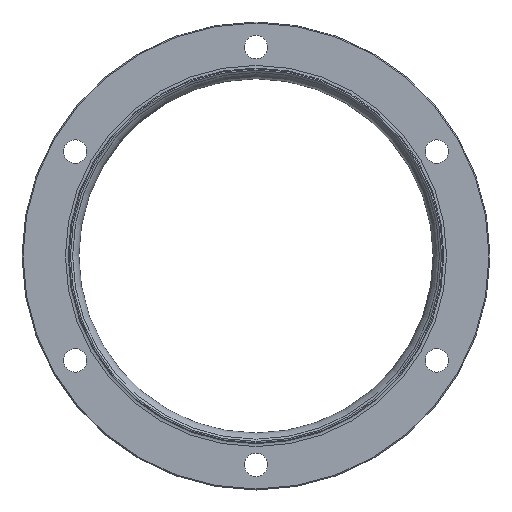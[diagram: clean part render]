
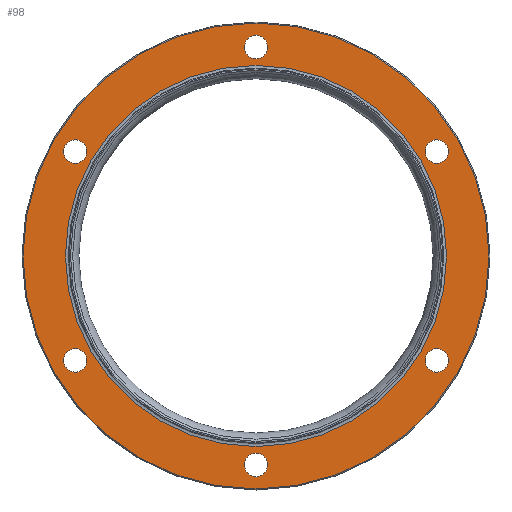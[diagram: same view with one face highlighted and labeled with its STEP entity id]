
A CAD part, top view. The second image highlights one B-rep face of the part: STEP entity #98.
In plain terms, the highlighted planar face has unit normal (0, 0, 1).
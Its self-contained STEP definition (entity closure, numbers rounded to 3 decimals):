
#98=ADVANCED_FACE('',(#317,#319,#321,#323,#325,#327,#329,#331),#333,.T.);
#317=FACE_BOUND('',#318,.T.);
#318=EDGE_LOOP('',(#508));
#319=FACE_BOUND('',#320,.T.);
#320=EDGE_LOOP('',(#509));
#321=FACE_BOUND('',#322,.T.);
#322=EDGE_LOOP('',(#510));
#323=FACE_BOUND('',#324,.T.);
#324=EDGE_LOOP('',(#511));
#325=FACE_BOUND('',#326,.T.);
#326=EDGE_LOOP('',(#512));
#327=FACE_BOUND('',#328,.T.);
#328=EDGE_LOOP('',(#513));
#329=FACE_BOUND('',#330,.T.);
#330=EDGE_LOOP('',(#514));
#331=FACE_BOUND('',#332,.T.);
#332=EDGE_LOOP('',(#515,#516));
#333=PLANE('',#334);
#334=AXIS2_PLACEMENT_3D('',#335,#336,#337);
#335=CARTESIAN_POINT('',(0.,69.7,2.7));
#336=DIRECTION('',(0.,0.,1.));
#337=DIRECTION('',(1.,0.,0.));
#508=ORIENTED_EDGE('',*,*,#577,.F.);
#509=ORIENTED_EDGE('',*,*,#565,.T.);
#510=ORIENTED_EDGE('',*,*,#578,.T.);
#511=ORIENTED_EDGE('',*,*,#579,.T.);
#512=ORIENTED_EDGE('',*,*,#580,.T.);
#513=ORIENTED_EDGE('',*,*,#581,.T.);
#514=ORIENTED_EDGE('',*,*,#582,.T.);
#515=ORIENTED_EDGE('',*,*,#583,.T.);
#516=ORIENTED_EDGE('',*,*,#584,.T.);
#565=EDGE_CURVE('',#602,#602,#603,.F.);
#577=EDGE_CURVE('',#626,#626,#627,.T.);
#578=EDGE_CURVE('',#628,#628,#629,.F.);
#579=EDGE_CURVE('',#630,#630,#631,.F.);
#580=EDGE_CURVE('',#632,#632,#633,.F.);
#581=EDGE_CURVE('',#634,#634,#635,.F.);
#582=EDGE_CURVE('',#636,#636,#637,.F.);
#583=EDGE_CURVE('',#638,#639,#640,.T.);
#584=EDGE_CURVE('',#639,#638,#641,.T.);
#602=VERTEX_POINT('',#676);
#603=CIRCLE('',#677,3.5);
#626=VERTEX_POINT('',#736);
#627=CIRCLE('',#737,69.7);
#628=VERTEX_POINT('',#741);
#629=CIRCLE('',#742,3.5);
#630=VERTEX_POINT('',#746);
#631=CIRCLE('',#747,3.5);
#632=VERTEX_POINT('',#751);
#633=CIRCLE('',#752,3.5);
#634=VERTEX_POINT('',#756);
#635=CIRCLE('',#757,3.5);
#636=VERTEX_POINT('',#761);
#637=CIRCLE('',#762,3.5);
#638=VERTEX_POINT('',#766);
#639=VERTEX_POINT('',#767);
#640=CIRCLE('',#768,57.);
#641=CIRCLE('',#772,57.);
#676=CARTESIAN_POINT('',(3.5,62.5,2.7));
#677=AXIS2_PLACEMENT_3D('',#678,#679,#680);
#678=CARTESIAN_POINT('',(0.,62.5,2.7));
#679=DIRECTION('',(0.,0.,1.));
#680=DIRECTION('',(1.,0.,0.));
#736=CARTESIAN_POINT('',(-69.7,0.,2.7));
#737=AXIS2_PLACEMENT_3D('',#738,#739,#740);
#738=CARTESIAN_POINT('',(0.,0.,2.7));
#739=DIRECTION('',(0.,0.,-1.));
#740=DIRECTION('',(-1.,0.,0.));
#741=CARTESIAN_POINT('',(57.627,31.25,2.7));
#742=AXIS2_PLACEMENT_3D('',#743,#744,#745);
#743=CARTESIAN_POINT('',(54.127,31.25,2.7));
#744=DIRECTION('',(0.,0.,1.));
#745=DIRECTION('',(1.,0.,0.));
#746=CARTESIAN_POINT('',(57.627,-31.25,2.7));
#747=AXIS2_PLACEMENT_3D('',#748,#749,#750);
#748=CARTESIAN_POINT('',(54.127,-31.25,2.7));
#749=DIRECTION('',(0.,0.,1.));
#750=DIRECTION('',(1.,0.,0.));
#751=CARTESIAN_POINT('',(3.5,-62.5,2.7));
#752=AXIS2_PLACEMENT_3D('',#753,#754,#755);
#753=CARTESIAN_POINT('',(0.,-62.5,2.7));
#754=DIRECTION('',(0.,0.,1.));
#755=DIRECTION('',(1.,0.,0.));
#756=CARTESIAN_POINT('',(-50.627,-31.25,2.7));
#757=AXIS2_PLACEMENT_3D('',#758,#759,#760);
#758=CARTESIAN_POINT('',(-54.127,-31.25,2.7));
#759=DIRECTION('',(0.,0.,1.));
#760=DIRECTION('',(1.,0.,0.));
#761=CARTESIAN_POINT('',(-50.627,31.25,2.7));
#762=AXIS2_PLACEMENT_3D('',#763,#764,#765);
#763=CARTESIAN_POINT('',(-54.127,31.25,2.7));
#764=DIRECTION('',(0.,0.,1.));
#765=DIRECTION('',(1.,0.,0.));
#766=CARTESIAN_POINT('',(-57.,0.,2.7));
#767=CARTESIAN_POINT('',(57.,0.,2.7));
#768=AXIS2_PLACEMENT_3D('',#769,#770,#771);
#769=CARTESIAN_POINT('',(0.,0.,2.7));
#770=DIRECTION('',(0.,0.,-1.));
#771=DIRECTION('',(-1.,0.,0.));
#772=AXIS2_PLACEMENT_3D('',#773,#774,#775);
#773=CARTESIAN_POINT('',(0.,0.,2.7));
#774=DIRECTION('',(0.,0.,-1.));
#775=DIRECTION('',(1.,0.,0.));
